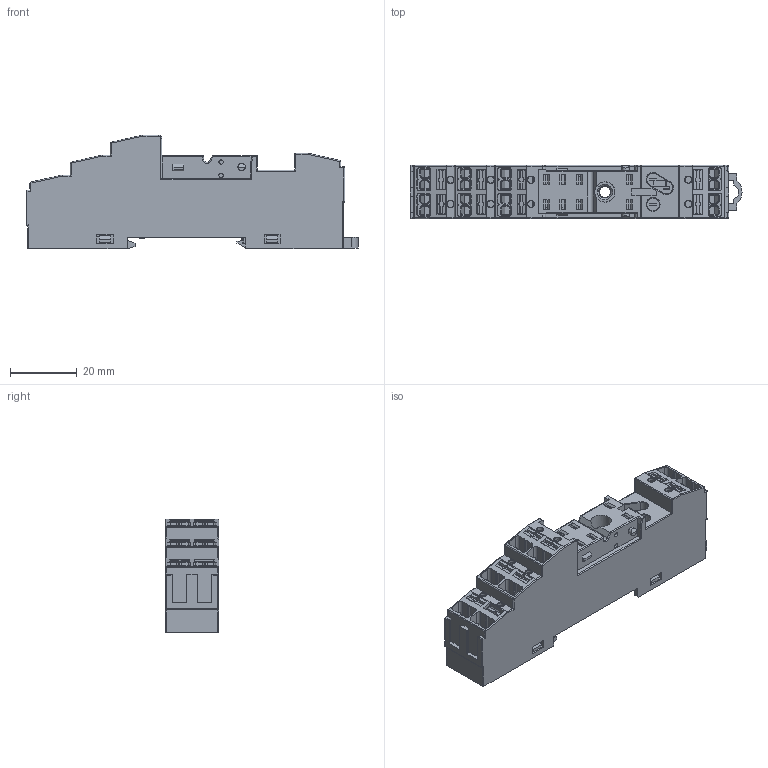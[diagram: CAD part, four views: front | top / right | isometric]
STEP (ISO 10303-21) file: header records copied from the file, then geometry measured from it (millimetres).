
FILE_DESCRIPTION(/* description */ (''),/* implementation_level */ '2;1');
FILE_NAME(/* name */ '14f-2z-c8.stp',/* time_stamp */ '2022-04-19T11:04:06+08:00',/* author */ (''),/* organization */ (''),/* preprocessor_version */ 'ST-DEVELOPER v11',/* originating_system */ 'SIEMENS UGS NX 6.0',/* authorisation */ '');
FILE_SCHEMA (('CONFIG_CONTROL_DESIGN'));
Products named in the file (1): 14f2zc8
Bounding box: 99.85 x 16 x 34.2 mm (x, y, z)
Volume: 16730.3 mm3; surface area: 33675.1 mm2
Topology: 14 solids, 14 shells, 2051 faces, 5810 edges, 3769 vertices
Faces by surface type: plane 1561, cylinder 364, cone 73, sphere 22, bspline 19, torus 12
Full cylindrical faces by diameter (mm): 1.3 x4, 2 x8, 2.2 x2, 3.2 x2, 3.8 x1, 6.1 x1
Entity records: 66352 total; most frequent: CARTESIAN_POINT 12643, ORIENTED_EDGE 11552, DIRECTION 10515, EDGE_CURVE 5776, LINE 4869, VECTOR 4869, VERTEX_POINT 3784, AXIS2_PLACEMENT_3D 2823
